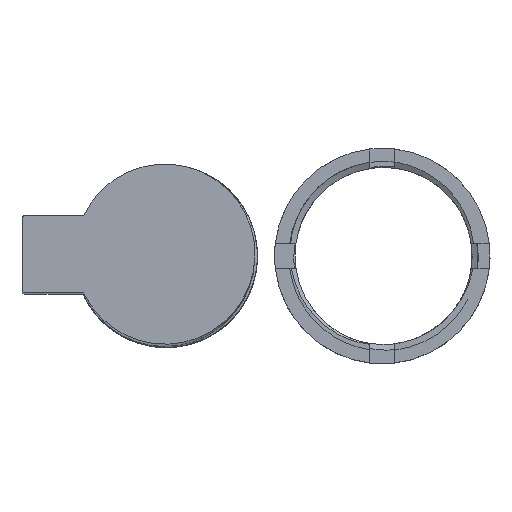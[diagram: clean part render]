
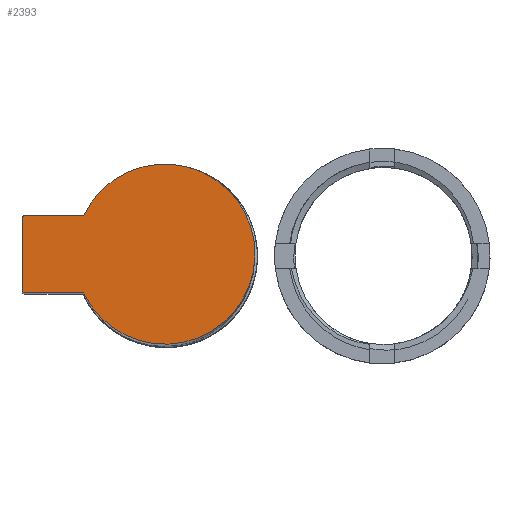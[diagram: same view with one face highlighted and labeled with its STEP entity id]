
A CAD part, top view. The second image highlights one B-rep face of the part: STEP entity #2393.
In plain terms, the highlighted planar face has unit normal (0, 0, 1).
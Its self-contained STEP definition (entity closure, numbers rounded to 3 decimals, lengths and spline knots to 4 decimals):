
#359=CIRCLE($,#2480,1.45);
#385=CIRCLE($,#2529,0.05);
#390=CIRCLE($,#2540,0.05);
#490=FACE_OUTER_BOUND($,#617,.T.);
#617=EDGE_LOOP($,(#1962,#1963,#1964,#1965,#1966,#1967));
#708=LINE($,#17835,#790);
#716=LINE($,#17892,#798);
#721=LINE($,#17912,#803);
#790=VECTOR($,#2784,1.15);
#798=VECTOR($,#2858,0.9416);
#803=VECTOR($,#2885,0.9416);
#939=VERTEX_POINT($,#17773);
#940=VERTEX_POINT($,#17775);
#953=VERTEX_POINT($,#17831);
#955=VERTEX_POINT($,#17834);
#971=VERTEX_POINT($,#17888);
#975=VERTEX_POINT($,#17908);
#1285=EDGE_CURVE($,#940,#939,#359,.T.);
#1307=EDGE_CURVE($,#955,#953,#708,.F.);
#1329=EDGE_CURVE($,#971,#953,#385,.T.);
#1331=EDGE_CURVE($,#971,#940,#716,.F.);
#1339=EDGE_CURVE($,#955,#975,#390,.T.);
#1341=EDGE_CURVE($,#939,#975,#721,.F.);
#1962=ORIENTED_EDGE($,*,*,#1329,.F.);
#1963=ORIENTED_EDGE($,*,*,#1331,.T.);
#1964=ORIENTED_EDGE($,*,*,#1285,.T.);
#1965=ORIENTED_EDGE($,*,*,#1341,.T.);
#1966=ORIENTED_EDGE($,*,*,#1339,.F.);
#1967=ORIENTED_EDGE($,*,*,#1307,.T.);
#2294=PLANE($,#2542);
#2393=ADVANCED_FACE($,(#490),#2294,.T.);
#2480=AXIS2_PLACEMENT_3D($,#17776,#2738,#2739);
#2529=AXIS2_PLACEMENT_3D($,#17889,#2853,#2854);
#2540=AXIS2_PLACEMENT_3D($,#17909,#2880,#2881);
#2542=AXIS2_PLACEMENT_3D($,#17913,#2886,#2887);
#2738=DIRECTION('center_axis',(0.,0.,1.));
#2739=DIRECTION('ref_axis',(-1.,0.,0.));
#2784=DIRECTION($,(0.,1.,0.));
#2853=DIRECTION('center_axis',(0.,0.,-1.));
#2854=DIRECTION('ref_axis',(-0.707,-0.707,0.));
#2858=DIRECTION($,(-1.,0.,0.));
#2880=DIRECTION('center_axis',(0.,0.,-1.));
#2881=DIRECTION('ref_axis',(-0.707,0.707,0.));
#2885=DIRECTION($,(1.,0.,0.));
#2886=DIRECTION('center_axis',(0.,0.,1.));
#2887=DIRECTION('ref_axis',(-1.,0.,0.));
#17773=CARTESIAN_POINT('',(-7.3084,5.625,16.8));
#17775=CARTESIAN_POINT('',(-7.3084,4.375,16.8));
#17776=CARTESIAN_POINT('Origin',(-6.,5.,16.8));
#17831=CARTESIAN_POINT('',(-8.3,4.425,16.8));
#17834=CARTESIAN_POINT('',(-8.3,5.575,16.8));
#17835=CARTESIAN_POINT($,(-8.3,5.,16.8));
#17888=CARTESIAN_POINT('',(-8.25,4.375,16.8));
#17889=CARTESIAN_POINT('Origin',(-8.25,4.425,16.8));
#17892=CARTESIAN_POINT($,(-6.85,4.375,16.8));
#17908=CARTESIAN_POINT('',(-8.25,5.625,16.8));
#17909=CARTESIAN_POINT('Origin',(-8.25,5.575,16.8));
#17912=CARTESIAN_POINT($,(-6.85,5.625,16.8));
#17913=CARTESIAN_POINT('Origin',(-6.85,5.,16.8));
